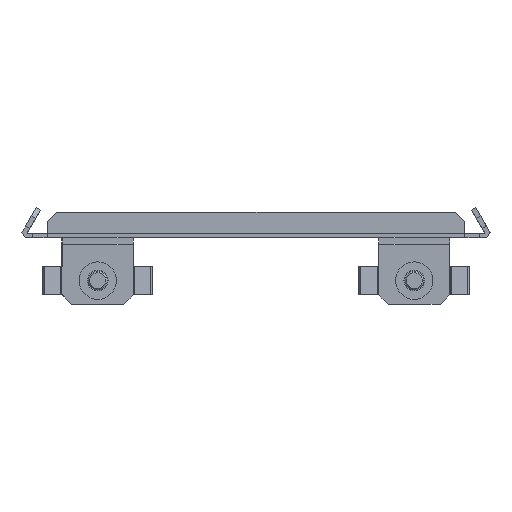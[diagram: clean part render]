
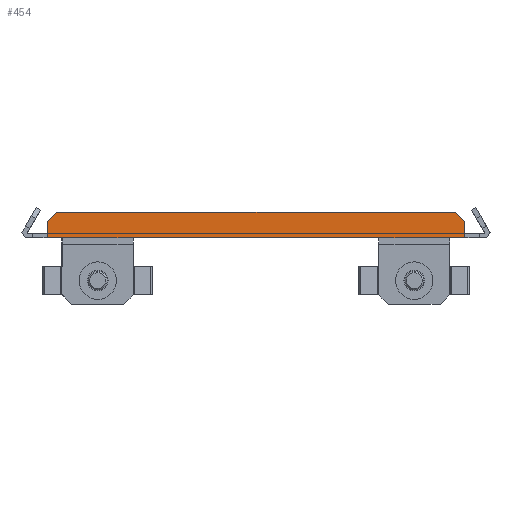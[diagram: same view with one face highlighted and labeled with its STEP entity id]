
A CAD part, left-side view. The second image highlights one B-rep face of the part: STEP entity #454.
In plain terms, the highlighted planar face has unit normal (-1, 0, 0).
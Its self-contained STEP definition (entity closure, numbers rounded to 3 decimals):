
#22 = ORIENTED_EDGE ( 'NONE', *, *, #18732, .T. ) ;
#243 = CARTESIAN_POINT ( 'NONE',  ( 1., 4.647, -1.5 ) ) ;
#352 = DIRECTION ( 'NONE',  ( 0., 0., -1. ) ) ;
#454 = ADVANCED_FACE ( 'NONE', ( #3307 ), #9960, .F. ) ;
#1017 = EDGE_CURVE ( 'NONE', #11942, #9002, #8609, .T. ) ;
#1022 = CARTESIAN_POINT ( 'NONE',  ( 1., -61.25, 6.5 ) ) ;
#1269 = ORIENTED_EDGE ( 'NONE', *, *, #1017, .T. ) ;
#2063 = DIRECTION ( 'NONE',  ( 0., -1., 0. ) ) ;
#2268 = VECTOR ( 'NONE', #352, 1000. ) ;
#2510 = CARTESIAN_POINT ( 'NONE',  ( 1., 4.647, -1.5 ) ) ;
#2600 = ORIENTED_EDGE ( 'NONE', *, *, #17317, .T. ) ;
#3307 = FACE_OUTER_BOUND ( 'NONE', #15579, .T. ) ;
#3751 = DIRECTION ( 'NONE',  ( 0., -1., 0. ) ) ;
#3848 = CARTESIAN_POINT ( 'NONE',  ( 1., 1.647, 6.5 ) ) ;
#4113 = CARTESIAN_POINT ( 'NONE',  ( 1., -61.25, -1.5 ) ) ;
#4230 = VECTOR ( 'NONE', #3751, 1000. ) ;
#4358 = CARTESIAN_POINT ( 'NONE',  ( 1., -122.345, -1.5 ) ) ;
#4432 = CARTESIAN_POINT ( 'NONE',  ( 1., -25.802, 33.949 ) ) ;
#4785 = EDGE_CURVE ( 'NONE', #17004, #9002, #18822, .T. ) ;
#5306 = EDGE_CURVE ( 'NONE', #16421, #17386, #7737, .T. ) ;
#5312 = CARTESIAN_POINT ( 'NONE',  ( 1., -124.147, 6.5 ) ) ;
#5375 = CARTESIAN_POINT ( 'NONE',  ( 1., -61.25, -1.5 ) ) ;
#6131 = DIRECTION ( 'NONE',  ( 0., 0., -1. ) ) ;
#6201 = DIRECTION ( 'NONE',  ( 0., -1., 0. ) ) ;
#6415 = CARTESIAN_POINT ( 'NONE',  ( 1., -100., -1.5 ) ) ;
#6785 = VECTOR ( 'NONE', #21325, 1000. ) ;
#7121 = ORIENTED_EDGE ( 'NONE', *, *, #5306, .T. ) ;
#7217 = EDGE_CURVE ( 'NONE', #12075, #11942, #12350, .T. ) ;
#7337 = CARTESIAN_POINT ( 'NONE',  ( 1., -0.155, -1.5 ) ) ;
#7686 = DIRECTION ( 'NONE',  ( 0., -1., 0. ) ) ;
#7737 = LINE ( 'NONE', #2510, #9908 ) ;
#8124 = VERTEX_POINT ( 'NONE', #5312 ) ;
#8609 = LINE ( 'NONE', #17516, #12674 ) ;
#8827 = DIRECTION ( 'NONE',  ( 0., -1., 0. ) ) ;
#9002 = VERTEX_POINT ( 'NONE', #12876 ) ;
#9542 = ORIENTED_EDGE ( 'NONE', *, *, #4785, .F. ) ;
#9640 = VERTEX_POINT ( 'NONE', #9678 ) ;
#9678 = CARTESIAN_POINT ( 'NONE',  ( 1., -22.5, -1.5 ) ) ;
#9880 = EDGE_CURVE ( 'NONE', #8124, #18885, #19159, .T. ) ;
#9908 = VECTOR ( 'NONE', #6131, 1000. ) ;
#9960 = PLANE ( 'NONE',  #15120 ) ;
#10061 = DIRECTION ( 'NONE',  ( 0., -1., 0. ) ) ;
#10215 = VECTOR ( 'NONE', #8827, 1000. ) ;
#10760 = LINE ( 'NONE', #4113, #18693 ) ;
#11032 = ORIENTED_EDGE ( 'NONE', *, *, #7217, .T. ) ;
#11164 = DIRECTION ( 'NONE',  ( 0., 1., 0. ) ) ;
#11524 = LINE ( 'NONE', #19846, #21040 ) ;
#11598 = LINE ( 'NONE', #19491, #6785 ) ;
#11942 = VERTEX_POINT ( 'NONE', #4358 ) ;
#12075 = VERTEX_POINT ( 'NONE', #6415 ) ;
#12290 = EDGE_CURVE ( 'NONE', #9640, #12075, #10760, .T. ) ;
#12350 = LINE ( 'NONE', #5375, #4230 ) ;
#12674 = VECTOR ( 'NONE', #2063, 1000. ) ;
#12797 = VERTEX_POINT ( 'NONE', #7337 ) ;
#12832 = DIRECTION ( 'NONE',  ( 0., 0.707, -0.707 ) ) ;
#12876 = CARTESIAN_POINT ( 'NONE',  ( 1., -127.147, -1.5 ) ) ;
#14352 = LINE ( 'NONE', #4432, #15425 ) ;
#14513 = ORIENTED_EDGE ( 'NONE', *, *, #9880, .T. ) ;
#15120 = AXIS2_PLACEMENT_3D ( 'NONE', #16306, #18135, #10061 ) ;
#15425 = VECTOR ( 'NONE', #12832, 1000. ) ;
#15579 = EDGE_LOOP ( 'NONE', ( #7121, #18654, #22, #17497, #11032, #1269, #9542, #2600, #14513, #19548 ) ) ;
#16106 = EDGE_CURVE ( 'NONE', #18885, #16421, #14352, .T. ) ;
#16306 = CARTESIAN_POINT ( 'NONE',  ( 1., -61.25, -1.5 ) ) ;
#16421 = VERTEX_POINT ( 'NONE', #21212 ) ;
#16793 = EDGE_CURVE ( 'NONE', #17386, #12797, #20631, .T. ) ;
#17004 = VERTEX_POINT ( 'NONE', #18738 ) ;
#17201 = VECTOR ( 'NONE', #11164, 1000. ) ;
#17317 = EDGE_CURVE ( 'NONE', #17004, #8124, #11598, .T. ) ;
#17386 = VERTEX_POINT ( 'NONE', #243 ) ;
#17497 = ORIENTED_EDGE ( 'NONE', *, *, #12290, .T. ) ;
#17516 = CARTESIAN_POINT ( 'NONE',  ( 1., -61.25, -1.5 ) ) ;
#18135 = DIRECTION ( 'NONE',  ( 1., 0., 0. ) ) ;
#18654 = ORIENTED_EDGE ( 'NONE', *, *, #16793, .T. ) ;
#18693 = VECTOR ( 'NONE', #7686, 1000. ) ;
#18732 = EDGE_CURVE ( 'NONE', #12797, #9640, #11524, .T. ) ;
#18738 = CARTESIAN_POINT ( 'NONE',  ( 1., -127.147, 3.5 ) ) ;
#18822 = LINE ( 'NONE', #20487, #2268 ) ;
#18885 = VERTEX_POINT ( 'NONE', #3848 ) ;
#19159 = LINE ( 'NONE', #1022, #17201 ) ;
#19491 = CARTESIAN_POINT ( 'NONE',  ( 1., -96.699, 33.949 ) ) ;
#19548 = ORIENTED_EDGE ( 'NONE', *, *, #16106, .T. ) ;
#19846 = CARTESIAN_POINT ( 'NONE',  ( 1., -61.25, -1.5 ) ) ;
#20487 = CARTESIAN_POINT ( 'NONE',  ( 1., -127.147, -1.5 ) ) ;
#20631 = LINE ( 'NONE', #20750, #10215 ) ;
#20750 = CARTESIAN_POINT ( 'NONE',  ( 1., -61.25, -1.5 ) ) ;
#21040 = VECTOR ( 'NONE', #6201, 1000. ) ;
#21212 = CARTESIAN_POINT ( 'NONE',  ( 1., 4.647, 3.5 ) ) ;
#21325 = DIRECTION ( 'NONE',  ( 0., 0.707, 0.707 ) ) ;
